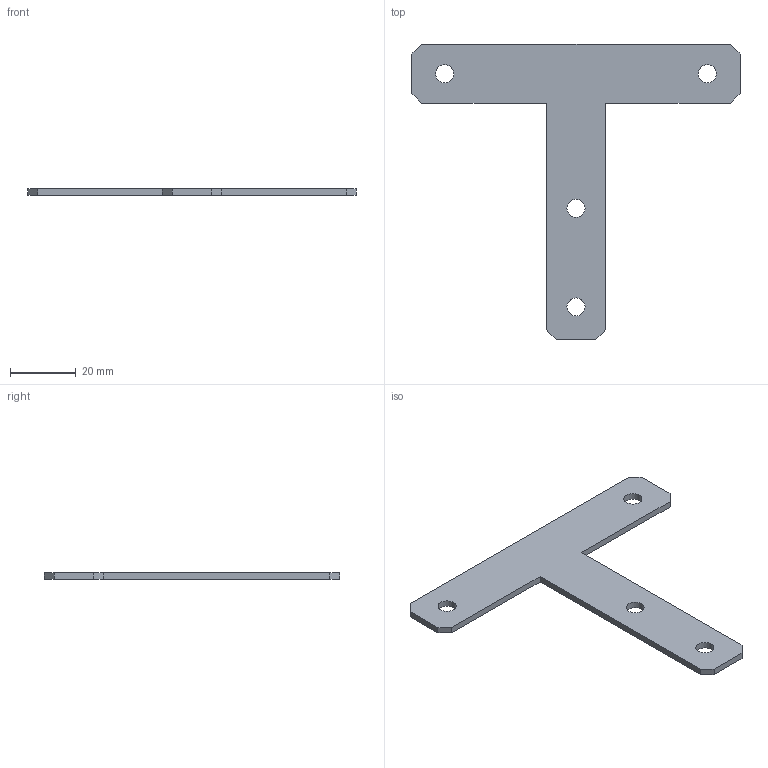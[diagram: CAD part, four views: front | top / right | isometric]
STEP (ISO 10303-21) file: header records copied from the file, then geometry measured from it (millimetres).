
FILE_DESCRIPTION (( 'STEP AP214' ), '1' );
FILE_NAME ('SHPTTS5.step', '2025-11-29T07:14:45', ( '' ), ( '' ), 'SwSTEP 2.0', 'SolidWorks 2016', '' );
FILE_SCHEMA (( 'AUTOMOTIVE_DESIGN' ));
Length unit declared in the file: millimetre
Products named in the file (2): SHPTTS5; PLATE_SHPTTS5
Assembly tree (1 placements, depth 2):
  SHPTTS5
    PLATE_SHPTTS5
Bounding box: 100 x 90 x 2 mm (x, y, z)
Volume: 5947.9 mm3; surface area: 6825.1 mm2
Topology: 1 solids, 1 shells, 20 faces, 54 edges, 36 vertices
Faces by surface type: plane 16, cylinder 4
Full cylindrical faces by diameter (mm): 5.5 x4
Entity records: 688 total; most frequent: CARTESIAN_POINT 110, DIRECTION 106, ORIENTED_EDGE 100, EDGE_CURVE 50, LINE 42, VECTOR 42, VERTEX_POINT 36, EDGE_LOOP 32
